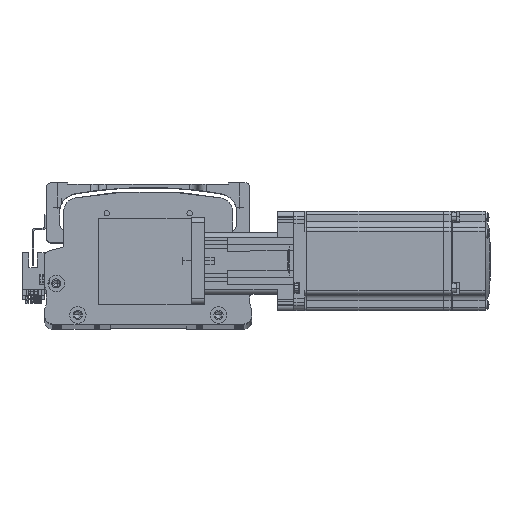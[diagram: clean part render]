
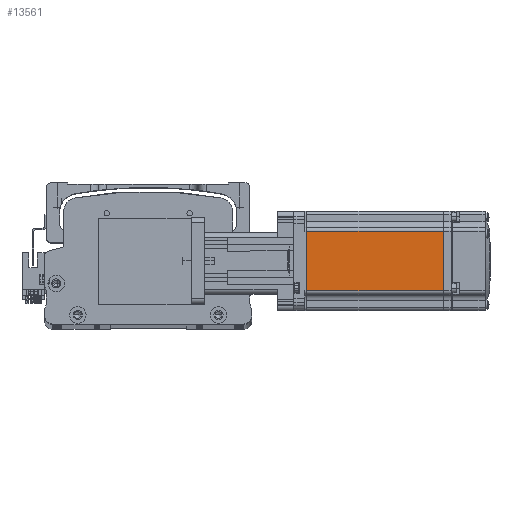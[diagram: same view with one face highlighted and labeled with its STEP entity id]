
A CAD part, top view. The second image highlights one B-rep face of the part: STEP entity #13561.
In plain terms, the highlighted planar face has unit normal (0, 0, 1) as drawn and (0, -1, 0) by its records, which use the part's own axes.
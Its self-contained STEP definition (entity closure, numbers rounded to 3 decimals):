
#190 = VERTEX_POINT ( 'NONE', #57897 ) ;
#700 = ORIENTED_EDGE ( 'NONE', *, *, #34528, .F. ) ;
#927 = EDGE_LOOP ( 'NONE', ( #48960, #46685, #9321, #700 ) ) ;
#4121 = DIRECTION ( 'NONE',  ( 0., 0., -1. ) ) ;
#4828 = LINE ( 'NONE', #55791, #31938 ) ;
#9321 = ORIENTED_EDGE ( 'NONE', *, *, #9929, .T. ) ;
#9929 = EDGE_CURVE ( 'NONE', #32685, #37369, #53401, .T. ) ;
#12752 = VECTOR ( 'NONE', #59456, 1000. ) ;
#13561 = ADVANCED_FACE ( 'NONE', ( #29529 ), #65942, .T. ) ;
#15054 = EDGE_CURVE ( 'NONE', #190, #32685, #4828, .T. ) ;
#16605 = DIRECTION ( 'NONE',  ( -1., 0., 0. ) ) ;
#18668 = CARTESIAN_POINT ( 'NONE',  ( -7.75, -30., -18. ) ) ;
#25265 = DIRECTION ( 'NONE',  ( -1., 0., 0. ) ) ;
#25483 = CARTESIAN_POINT ( 'NONE',  ( -6.5, -30., -25. ) ) ;
#29529 = FACE_OUTER_BOUND ( 'NONE', #927, .T. ) ;
#30619 = DIRECTION ( 'NONE',  ( 0., 0., -1. ) ) ;
#31938 = VECTOR ( 'NONE', #25265, 1000. ) ;
#32685 = VERTEX_POINT ( 'NONE', #35072 ) ;
#34074 = CARTESIAN_POINT ( 'NONE',  ( -90.45, -30., 0. ) ) ;
#34528 = EDGE_CURVE ( 'NONE', #55109, #37369, #58266, .T. ) ;
#35072 = CARTESIAN_POINT ( 'NONE',  ( -90.45, -30., 18. ) ) ;
#37369 = VERTEX_POINT ( 'NONE', #64009 ) ;
#39734 = CARTESIAN_POINT ( 'NONE',  ( -7.75, -30., 0. ) ) ;
#42914 = EDGE_CURVE ( 'NONE', #190, #55109, #51624, .T. ) ;
#46295 = VECTOR ( 'NONE', #16605, 1000. ) ;
#46685 = ORIENTED_EDGE ( 'NONE', *, *, #15054, .T. ) ;
#48960 = ORIENTED_EDGE ( 'NONE', *, *, #42914, .F. ) ;
#49212 = AXIS2_PLACEMENT_3D ( 'NONE', #25483, #61100, #30619 ) ;
#51624 = LINE ( 'NONE', #39734, #65131 ) ;
#52214 = CARTESIAN_POINT ( 'NONE',  ( -6.5, -30., -18. ) ) ;
#53401 = LINE ( 'NONE', #34074, #12752 ) ;
#55109 = VERTEX_POINT ( 'NONE', #18668 ) ;
#55791 = CARTESIAN_POINT ( 'NONE',  ( -6.5, -30., 18. ) ) ;
#57897 = CARTESIAN_POINT ( 'NONE',  ( -7.75, -30., 18. ) ) ;
#58266 = LINE ( 'NONE', #52214, #46295 ) ;
#59456 = DIRECTION ( 'NONE',  ( 0., 0., -1. ) ) ;
#61100 = DIRECTION ( 'NONE',  ( 0., -1., 0. ) ) ;
#64009 = CARTESIAN_POINT ( 'NONE',  ( -90.45, -30., -18. ) ) ;
#65131 = VECTOR ( 'NONE', #4121, 1000. ) ;
#65942 = PLANE ( 'NONE',  #49212 ) ;
